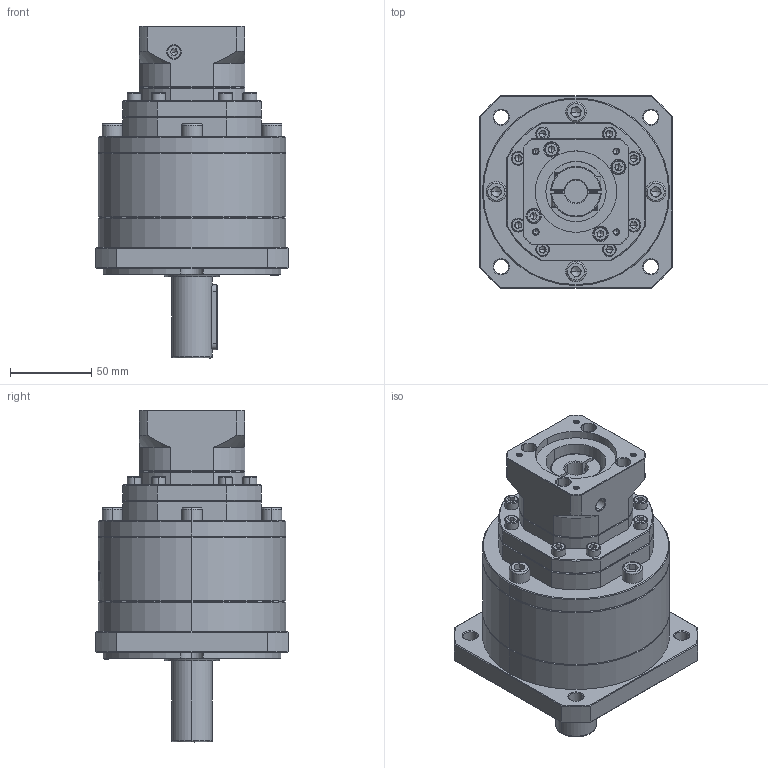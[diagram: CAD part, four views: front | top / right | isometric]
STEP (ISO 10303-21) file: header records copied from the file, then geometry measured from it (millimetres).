
FILE_DESCRIPTION (( 'STEP AP214' ), '1' );
FILE_NAME ('ZF120A-D25-L3-P2-14-50-70-M4.step', '2023-08-27T06:29:06', ( '' ), ( '' ), 'SwSTEP 2.0', 'SolidWorks 2016', '' );
FILE_SCHEMA (( 'AUTOMOTIVE_DESIGN' ));
Length unit declared in the file: millimetre
Products named in the file (1): ZF120A-D25-L3-P2-14-50-70-M4
Bounding box: 118 x 118 x 204 mm (x, y, z)
Volume: 1209686.2 mm3; surface area: 116479.4 mm2
Topology: 7 solids, 7 shells, 2346 faces, 6251 edges, 4015 vertices
Faces by surface type: plane 1179, bspline 435, cylinder 411, cone 299, torus 22
Entity records: 122702 total; most frequent: CARTESIAN_POINT 43862, ORIENTED_EDGE 12394, DIRECTION 9184, EDGE_CURVE 6197, VERTEX_POINT 4015, LINE 3310, VECTOR 3310, AXIS2_PLACEMENT_3D 2937
